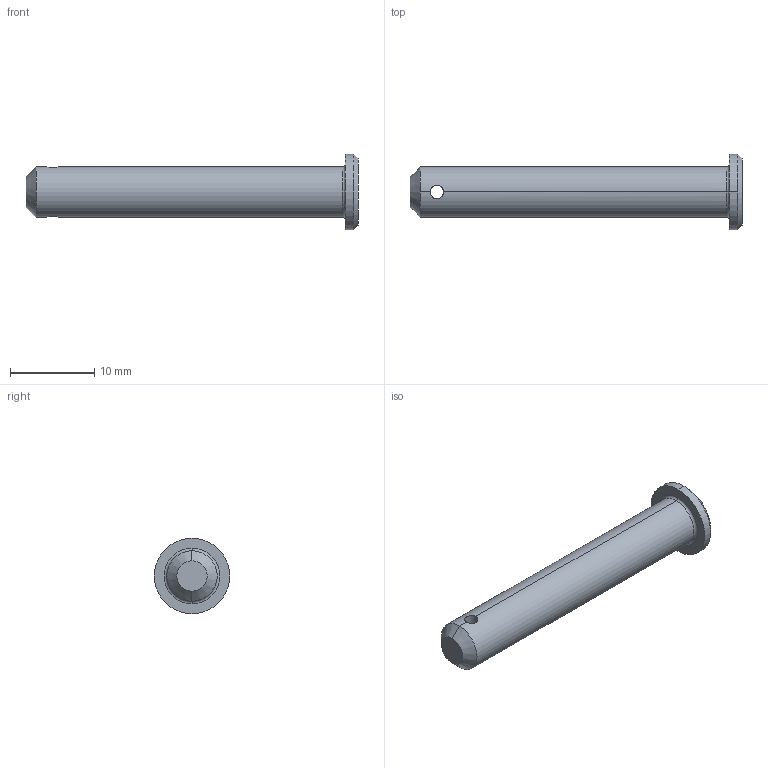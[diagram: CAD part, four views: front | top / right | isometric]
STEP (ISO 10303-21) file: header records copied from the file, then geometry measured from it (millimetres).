
FILE_DESCRIPTION (( 'STEP AP203' ), '1' );
FILE_NAME ('Wiberger-sms2360_6x38.step', '2012-10-09T08:58:30', ( 'Magnus' ), ( 'Wiberger' ), 'SwSTEP 2.0', 'SolidWorks 2011', '' );
FILE_SCHEMA (( 'CONFIG_CONTROL_DESIGN' ));
Length unit declared in the file: millimetre
Products named in the file (1): Wiberger-sms2360_6x38
Bounding box: 39.5 x 9 x 9 mm (x, y, z)
Volume: 1143.1 mm3; surface area: 885.4 mm2
Topology: 1 solids, 1 shells, 15 faces, 32 edges, 18 vertices
Faces by surface type: cylinder 6, cone 4, plane 3, torus 2
Entity records: 539 total; most frequent: CARTESIAN_POINT 130, DIRECTION 76, ORIENTED_EDGE 64, AXIS2_PLACEMENT_3D 32, EDGE_CURVE 32, VERTEX_POINT 18, CIRCLE 16, EDGE_LOOP 16
